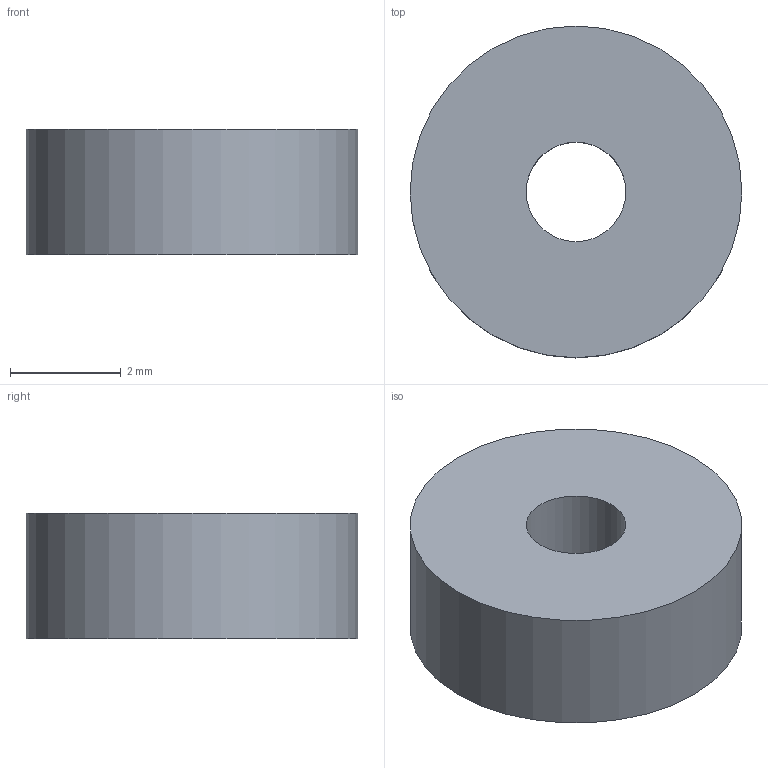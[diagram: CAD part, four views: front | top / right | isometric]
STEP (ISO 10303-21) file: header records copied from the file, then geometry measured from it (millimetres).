
FILE_DESCRIPTION(('Open CASCADE Model'),'2;1');
FILE_NAME('Open CASCADE Shape Model','2026-09-06T11:21:48',('Author'),( 'Open CASCADE'),'Open CASCADE STEP processor 7.7','Open CASCADE 7.7' ,'Unknown');
FILE_SCHEMA(('AUTOMOTIVE_DESIGN { 1 0 10303 214 1 1 1 1 }'));
Length unit declared in the file: millimetre
Products named in the file (1): Open CASCADE STEP translator 7.7 7
Bounding box: 6 x 6 x 2.27 mm (x, y, z)
Volume: 58.4 mm3; surface area: 107.1 mm2
Topology: 1 solids, 1 shells, 4 faces, 6 edges, 4 vertices
Faces by surface type: cylinder 2, plane 2
Full cylindrical faces by diameter (mm): 1.8 x1, 6 x1
Entity records: 192 total; most frequent: CARTESIAN_POINT 39, DIRECTION 30, ORIENTED_EDGE 12, PCURVE 12, DEFINITIONAL_REPRESENTATION 12, LINE 10, VECTOR 10, AXIS2_PLACEMENT_3D 9
